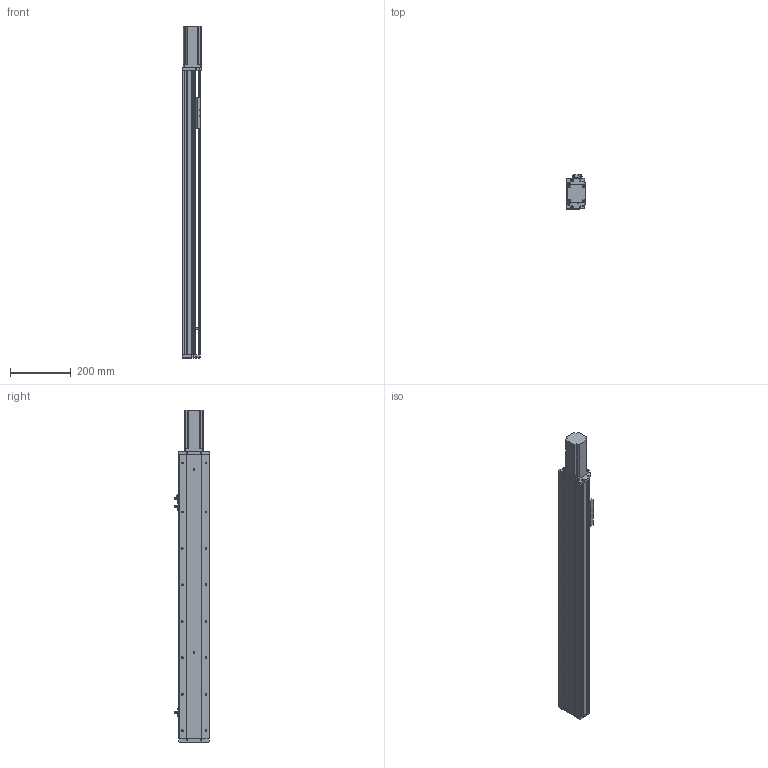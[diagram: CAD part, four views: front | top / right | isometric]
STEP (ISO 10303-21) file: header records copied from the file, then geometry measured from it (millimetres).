
FILE_DESCRIPTION (( 'STEP AP214' ), '1' );
FILE_NAME ('KSD100S-S700-MN-CM.STEP', '2019-08-30T07:36:31', ( '微软用户' ), ( '微软中国' ), 'SwSTEP 2.0', 'SolidWorks 2014', '' );
FILE_SCHEMA (( 'AUTOMOTIVE_DESIGN' ));
Length unit declared in the file: millimetre
Products named in the file (9): 100宽防尘板丝杆700行程不带电机座; 100宽马达安装板不带电机座; 100宽滚珠螺姆安装板半封闭; 100遵傷啣; 100宽底板半封闭700行程丝杆不带电机座; KSD100S-S700-MN-CM; 台达ECMA－C20604AS伺服电机; 覜茼え100遵圉猾敕; U倰嫖萇EEㄜSX672
Assembly tree (10 placements, depth 2):
  KSD100S-S700-MN-CM
    100宽底板半封闭700行程丝杆不带电机座
    100遵傷啣
    100宽滚珠螺姆安装板半封闭
    100宽马达安装板不带电机座
    100宽防尘板丝杆700行程不带电机座
    U倰嫖萇EEㄜSX672  x3
    覜茼え100遵圉猾敕
    台达ECMA－C20604AS伺服电机
Bounding box: 62 x 113.7 x 1092 mm (x, y, z)
Volume: 2306351.1 mm3; surface area: 713882 mm2
Topology: 11 solids, 11 shells, 1118 faces, 3164 edges, 1997 vertices
Faces by surface type: cylinder 531, plane 460, cone 127
Entity records: 38598 total; most frequent: CARTESIAN_POINT 7784, DIRECTION 5119, ORIENTED_EDGE 4980, EDGE_CURVE 2490, AXIS2_PLACEMENT_3D 1848, VERTEX_POINT 1621, VECTOR 1423, LINE 1423
